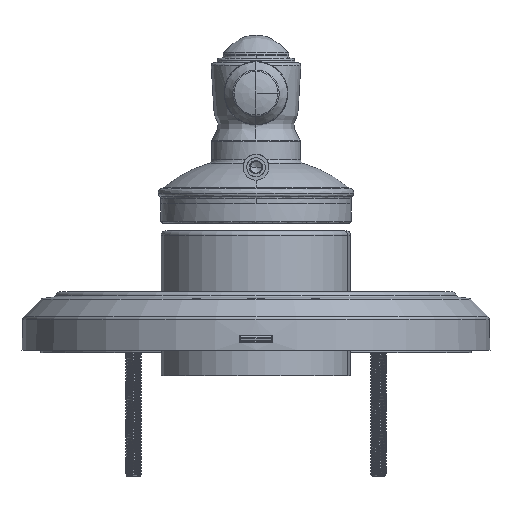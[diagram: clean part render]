
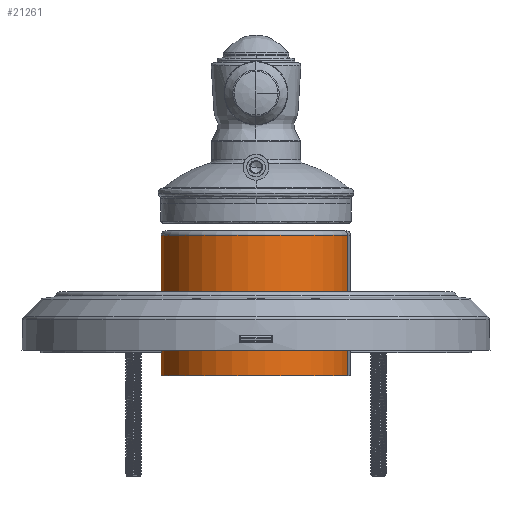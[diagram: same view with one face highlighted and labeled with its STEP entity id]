
A CAD part, front view. The second image highlights one B-rep face of the part: STEP entity #21261.
In plain terms, the highlighted cylindrical face has radius 25.756 mm (diameter 51.511 mm), a partial arc.
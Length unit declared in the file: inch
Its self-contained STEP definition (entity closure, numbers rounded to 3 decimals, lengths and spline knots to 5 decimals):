
#892 = VECTOR ( 'NONE', #42672, 39.37008 ) ;
#2479 = CIRCLE ( 'NONE', #4689, 1.014 ) ;
#2939 = EDGE_LOOP ( 'NONE', ( #5724, #26151, #35569, #26590 ) ) ;
#3167 = DIRECTION ( 'NONE',  ( 0.967, -0.254, 0. ) ) ;
#4689 = AXIS2_PLACEMENT_3D ( 'NONE', #45571, #14891, #42359 ) ;
#5724 = ORIENTED_EDGE ( 'NONE', *, *, #39000, .F. ) ;
#7545 = CYLINDRICAL_SURFACE ( 'NONE', #19405, 1.014 ) ;
#7586 = CARTESIAN_POINT ( 'NONE',  ( -0.98073, 10.25763, -0.27574 ) ) ;
#8308 = CARTESIAN_POINT ( 'NONE',  ( 0.98073, 9.74237, -0.27574 ) ) ;
#9897 = CARTESIAN_POINT ( 'NONE',  ( 0.98073, 9.74237, 1.22613 ) ) ;
#10830 = CARTESIAN_POINT ( 'NONE',  ( 0.98073, 9.74237, 1.27301 ) ) ;
#11675 = CIRCLE ( 'NONE', #27129, 1.014 ) ;
#11712 = LINE ( 'NONE', #10830, #42358 ) ;
#13653 = CARTESIAN_POINT ( 'NONE',  ( 0., 10., -0.27574 ) ) ;
#14891 = DIRECTION ( 'NONE',  ( 0., 0., -1. ) ) ;
#18146 = CARTESIAN_POINT ( 'NONE',  ( -0.98073, 10.25763, 1.22613 ) ) ;
#19405 = AXIS2_PLACEMENT_3D ( 'NONE', #41665, #31711, #3167 ) ;
#21261 = ADVANCED_FACE ( 'NONE', ( #35165 ), #7545, .T. ) ;
#22088 = DIRECTION ( 'NONE',  ( 0., 0., 1. ) ) ;
#23683 = VERTEX_POINT ( 'NONE', #18146 ) ;
#24684 = VERTEX_POINT ( 'NONE', #7586 ) ;
#26151 = ORIENTED_EDGE ( 'NONE', *, *, #31748, .T. ) ;
#26590 = ORIENTED_EDGE ( 'NONE', *, *, #40721, .T. ) ;
#27129 = AXIS2_PLACEMENT_3D ( 'NONE', #13653, #41785, #41333 ) ;
#29986 = EDGE_CURVE ( 'NONE', #45603, #33018, #11712, .T. ) ;
#31711 = DIRECTION ( 'NONE',  ( 0., 0., 1. ) ) ;
#31748 = EDGE_CURVE ( 'NONE', #24684, #45603, #11675, .T. ) ;
#33018 = VERTEX_POINT ( 'NONE', #9897 ) ;
#35165 = FACE_OUTER_BOUND ( 'NONE', #2939, .T. ) ;
#35510 = LINE ( 'NONE', #36201, #892 ) ;
#35569 = ORIENTED_EDGE ( 'NONE', *, *, #29986, .T. ) ;
#36201 = CARTESIAN_POINT ( 'NONE',  ( -0.98073, 10.25763, 1.27301 ) ) ;
#39000 = EDGE_CURVE ( 'NONE', #24684, #23683, #35510, .T. ) ;
#40721 = EDGE_CURVE ( 'NONE', #33018, #23683, #2479, .T. ) ;
#41333 = DIRECTION ( 'NONE',  ( 0.967, -0.254, 0. ) ) ;
#41665 = CARTESIAN_POINT ( 'NONE',  ( 0., 10., 1.27301 ) ) ;
#41785 = DIRECTION ( 'NONE',  ( 0., 0., 1. ) ) ;
#42358 = VECTOR ( 'NONE', #22088, 39.37008 ) ;
#42359 = DIRECTION ( 'NONE',  ( -0.967, 0.254, 0. ) ) ;
#42672 = DIRECTION ( 'NONE',  ( 0., 0., 1. ) ) ;
#45571 = CARTESIAN_POINT ( 'NONE',  ( 0., 10., 1.22613 ) ) ;
#45603 = VERTEX_POINT ( 'NONE', #8308 ) ;
